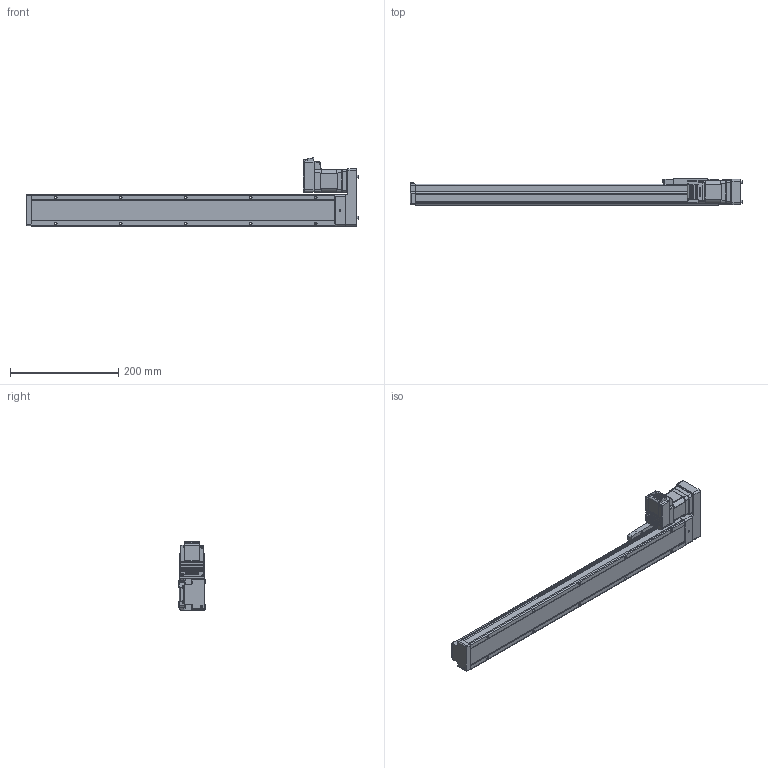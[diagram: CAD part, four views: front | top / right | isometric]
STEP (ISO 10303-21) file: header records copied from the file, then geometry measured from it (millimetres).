
FILE_DESCRIPTION (( 'STEP AP214' ), '1' );
FILE_NAME ('LEFS3(+)-25LNM1□-450-17L.STEP', '2023-05-31T05:03:12', ( '' ), ( '' ), 'SwSTEP 2.0', 'SolidWorks 2019', '' );
FILE_SCHEMA (( 'AUTOMOTIVE_DESIGN' ));
Length unit declared in the file: millimetre
Products named in the file (5): LEFS3(+)-25LNM1□-450-17L; LEFS3(+)-25R(L)NM1仩_MOTOR Flange; LEFS3(+)-25NM1_TABLE; CM3(+)-17L50A; LEFS3(+)-25R(L)NM1仩_BODY_450
Assembly tree (4 placements, depth 2):
  LEFS3(+)-25LNM1□-450-17L
    LEFS3(+)-25R(L)NM1仩_BODY_450
    LEFS3(+)-25NM1_TABLE
    LEFS3(+)-25R(L)NM1仩_MOTOR Flange
    CM3(+)-17L50A
Bounding box: 612.9 x 48 x 125.85 mm (x, y, z)
Volume: 1393258.4 mm3; surface area: 183080.6 mm2
Topology: 5 solids, 5 shells, 1023 faces, 2632 edges, 1660 vertices
Faces by surface type: plane 529, cylinder 322, cone 83, torus 39, bspline 29, sphere 21
Entity records: 41809 total; most frequent: CARTESIAN_POINT 7506, ORIENTED_EDGE 5202, DIRECTION 5028, EDGE_CURVE 2601, AXIS2_PLACEMENT_3D 1694, VERTEX_POINT 1660, VECTOR 1640, LINE 1640
